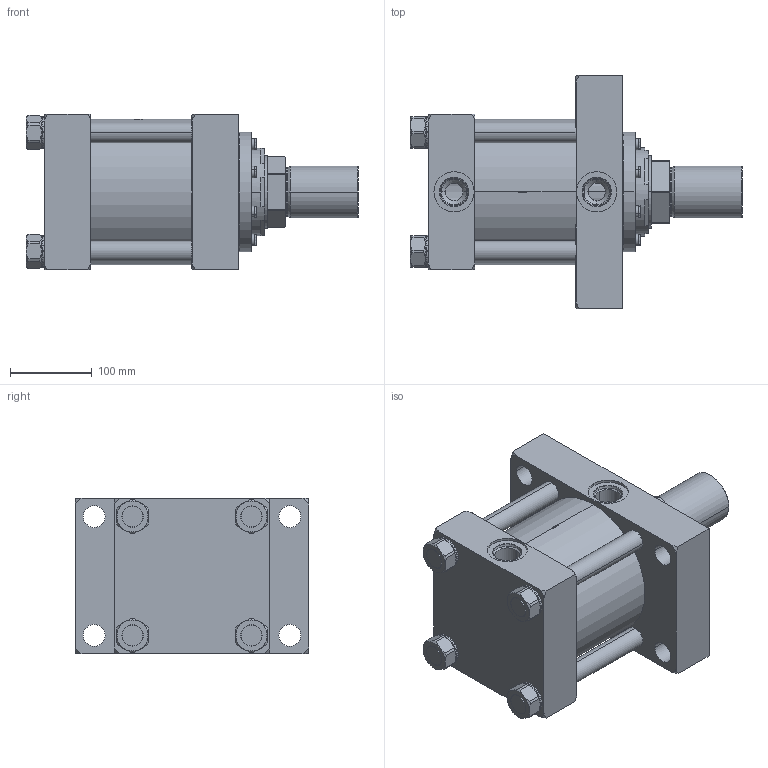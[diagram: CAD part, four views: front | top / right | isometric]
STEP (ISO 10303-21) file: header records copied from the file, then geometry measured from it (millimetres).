
FILE_DESCRIPTION (( 'STEP AP214' ), '1' );
FILE_NAME ('6.00JJ2HHNAT144A2.000.step', '2026-03-26T21:18:36', ( '' ), ( '' ), 'SwSTEP 2.0', 'SolidWorks 2023', '' );
FILE_SCHEMA (( 'AUTOMOTIVE_DESIGN' ));
Length unit declared in the file: inch
Products named in the file (1): 6.00JJ2HHNAT144A2.000
Bounding box: 406.4 x 285.75 x 190.5 mm (x, y, z)
Volume: 8327821.2 mm3; surface area: 855852.7 mm2
Topology: 40 solids, 40 shells, 1596 faces, 4143 edges, 2638 vertices
Faces by surface type: plane 812, cylinder 513, cone 229, bspline 34, torus 8
Entity records: 73561 total; most frequent: CARTESIAN_POINT 14062, ORIENTED_EDGE 8206, DIRECTION 7873, EDGE_CURVE 4103, AXIS2_PLACEMENT_3D 3033, VERTEX_POINT 2638, VECTOR 1807, LINE 1807
